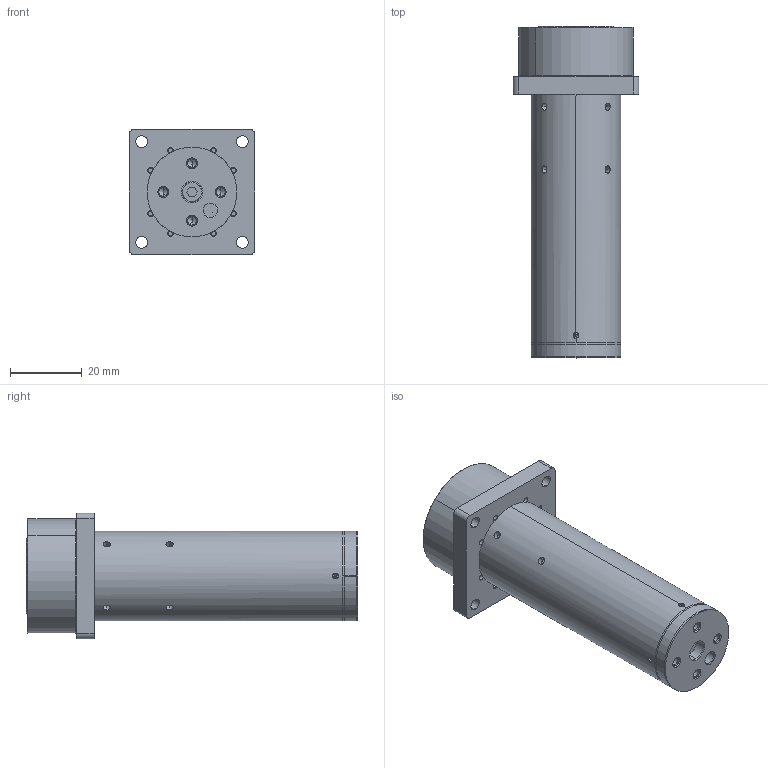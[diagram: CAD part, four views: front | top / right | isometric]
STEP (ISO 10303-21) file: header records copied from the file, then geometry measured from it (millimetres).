
FILE_DESCRIPTION (( 'STEP AP203' ), '1' );
FILE_NAME ('PB2000-002-00XY二维压电偏摆镜 step文件.STEP', '2024-05-30T08:33:50', ( '' ), ( '' ), 'SwSTEP 2.0', 'SolidWorks 2023', '' );
FILE_SCHEMA (( 'CONFIG_CONTROL_DESIGN' ));
Length unit declared in the file: millimetre
Products named in the file (11): GB╱T 13806.1-1992[精密机械用十字槽螺钉A型M2×8].STEP; PB2000-002-03铰链外壳体.STEP; PB2000-002-02-B下壳体.STEP; PB2000-002-00XY二维压电偏摆镜.STEP; PB2000-002-01上壳体.STEP; M3X10_内六角圆柱头螺钉_发黑.STEP; GB╱T 78-2007[内六角锥端紧定螺钉M2×2].STEP; PB2000-002-02下壳体.STEP; PB2000-002-06铰链.STEP; PB2000-002-05压紧螺钉.STEP; PB2000-002-00XY二维压电偏摆镜 step文件
Assembly tree (24 placements, depth 3):
  PB2000-002-00XY二维压电偏摆镜 step文件
    PB2000-002-00XY二维压电偏摆镜.STEP
      PB2000-002-01上壳体.STEP
      PB2000-002-02下壳体.STEP
      PB2000-002-03铰链外壳体.STEP
      PB2000-002-06铰链.STEP
      GB╱T 13806.1-1992[精密机械用十字槽螺钉A型M2×8].STEP  x12
      M3X10_内六角圆柱头螺钉_发黑.STEP
      PB2000-002-05压紧螺钉.STEP
      GB╱T 78-2007[内六角锥端紧定螺钉M2×2].STEP  x4
      PB2000-002-02-B下壳体.STEP
Bounding box: 35 x 92.49 x 35 mm (x, y, z)
Volume: 25856.5 mm3; surface area: 26792.4 mm2
Topology: 23 solids, 23 shells, 1105 faces, 2604 edges, 1551 vertices
Faces by surface type: plane 532, cylinder 266, cone 183, bspline 96, torus 28
Entity records: 18778 total; most frequent: CARTESIAN_POINT 4187, DIRECTION 2827, ORIENTED_EDGE 2624, EDGE_CURVE 1312, AXIS2_PLACEMENT_3D 1059, VERTEX_POINT 837, LINE 709, VECTOR 709
